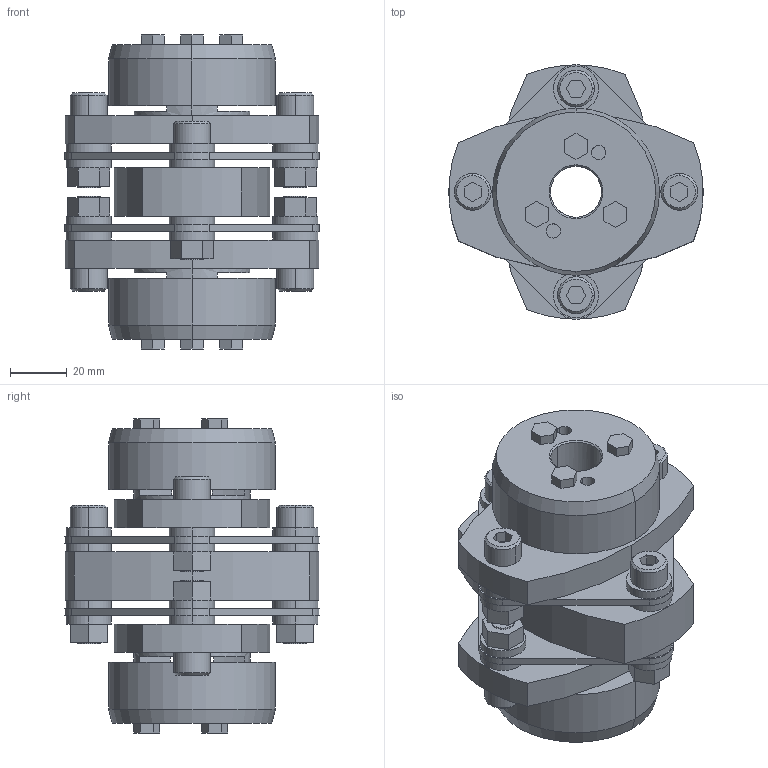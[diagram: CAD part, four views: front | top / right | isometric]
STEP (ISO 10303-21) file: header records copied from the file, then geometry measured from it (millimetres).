
FILE_DESCRIPTION((''),'2;1');
FILE_NAME('LCD-90T7-18×19.stp','2015-11-01T19:14:32',(''),(''),'AutoCAD STEP 2000i','AutoCAD 2000i',', , ');
FILE_SCHEMA(('CONFIG_CONTROL_DESIGN'));
Length unit declared in the file: millimetre
Products named in the file (5): LCD-90T7-19×19; 忣兜1; LC90T7-T019-1; LC90T7-T019; LCD90-ITA
Assembly tree (4 placements, depth 2):
  LCD-90T7-19×19
    忣兜1
    LC90T7-T019-1
    LC90T7-T019
    LCD90-ITA
Bounding box: 90 x 89.94 x 111 mm (x, y, z)
Volume: 279936.3 mm3; surface area: 73918.9 mm2
Topology: 1 solids, 1 shells, 320 faces, 780 edges, 512 vertices
Faces by surface type: plane 176, cylinder 120, cone 24
Entity records: 9635 total; most frequent: DIRECTION 1710, CARTESIAN_POINT 1617, ORIENTED_EDGE 1560, EDGE_CURVE 780, AXIS2_PLACEMENT_3D 605, VERTEX_POINT 512, VECTOR 500, LINE 500
